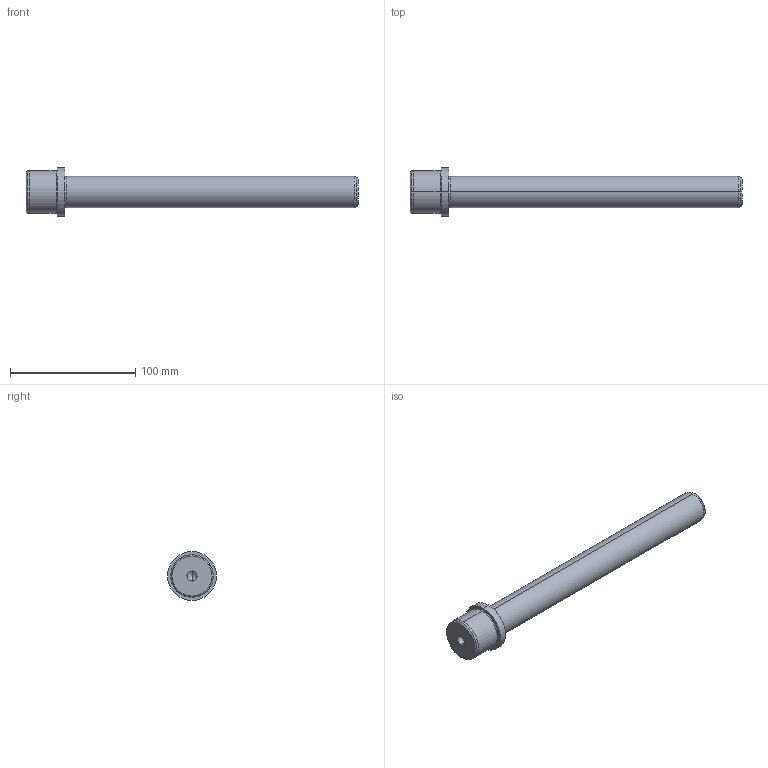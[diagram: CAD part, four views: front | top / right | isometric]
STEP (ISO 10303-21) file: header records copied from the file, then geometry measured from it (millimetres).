
FILE_DESCRIPTION( ( 'STEP AP203' ), '1' );
FILE_NAME( 'D:/Delta 3 D/D05/D05 - 25x240x25.step', '2002-12-31T22:38:45', ( ' ' ), ( ' ' ), 'XStep 1.0', ' ', ' ' );
FILE_SCHEMA( ( 'CONFIG_CONTROL_DESIGN' ) );
Length unit declared in the file: metre
Products named in the file (1): 1
Bounding box: 265 x 39 x 39 mm (x, y, z)
Volume: 143947.1 mm3; surface area: 24401.1 mm2
Topology: 1 solids, 1 shells, 29 faces, 57 edges, 35 vertices
Faces by surface type: revolution 20, bspline 9
Entity records: 855 total; most frequent: CARTESIAN_POINT 218, ORIENTED_EDGE 112, DIRECTION 110, EDGE_CURVE 56, AXIS2_PLACEMENT_3D 35, EDGE_LOOP 35, VERTEX_POINT 35, CIRCLE 34
